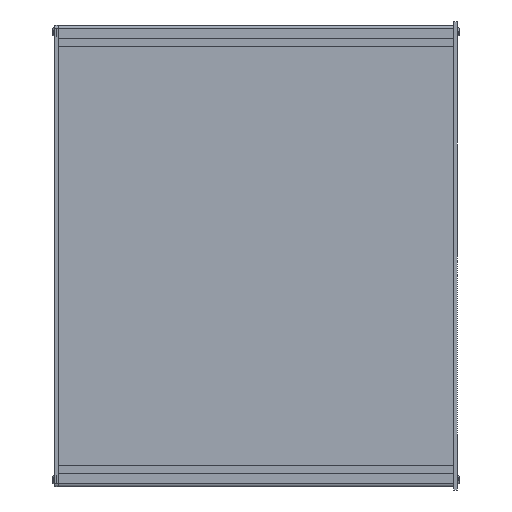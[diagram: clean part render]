
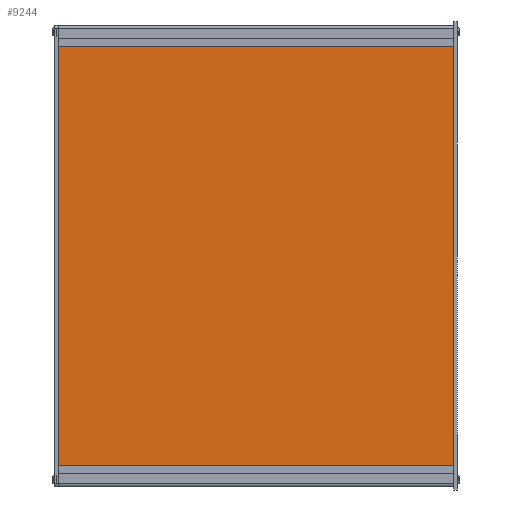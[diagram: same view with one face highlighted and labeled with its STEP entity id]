
A CAD part, left-side view. The second image highlights one B-rep face of the part: STEP entity #9244.
In plain terms, the highlighted planar face has unit normal (-1, 0, 0).
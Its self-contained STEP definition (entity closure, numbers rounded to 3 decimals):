
#1012=PLANE('',#10134);
#1308=FACE_OUTER_BOUND('',#1874,.T.);
#1874=EDGE_LOOP('',(#7037,#7038,#7039,#7040));
#2734=LINE('',#14578,#3444);
#2744=LINE('',#14599,#3454);
#2745=LINE('',#14601,#3455);
#2746=LINE('',#14602,#3456);
#3444=VECTOR('',#11668,10.);
#3454=VECTOR('',#11686,10.);
#3455=VECTOR('',#11687,10.);
#3456=VECTOR('',#11688,10.);
#4530=VERTEX_POINT('',#14571);
#4533=VERTEX_POINT('',#14576);
#4540=VERTEX_POINT('',#14598);
#4541=VERTEX_POINT('',#14600);
#5437=EDGE_CURVE('',#4530,#4533,#2734,.T.);
#5447=EDGE_CURVE('',#4530,#4540,#2744,.T.);
#5448=EDGE_CURVE('',#4541,#4533,#2745,.T.);
#5449=EDGE_CURVE('',#4540,#4541,#2746,.T.);
#7037=ORIENTED_EDGE('',*,*,#5447,.F.);
#7038=ORIENTED_EDGE('',*,*,#5437,.T.);
#7039=ORIENTED_EDGE('',*,*,#5448,.F.);
#7040=ORIENTED_EDGE('',*,*,#5449,.F.);
#9244=ADVANCED_FACE('',(#1308),#1012,.T.);
#10134=AXIS2_PLACEMENT_3D('',#14597,#11684,#11685);
#11668=DIRECTION('',(0.,1.,0.));
#11684=DIRECTION('center_axis',(-1.,0.,0.));
#11685=DIRECTION('ref_axis',(0.,0.,1.));
#11686=DIRECTION('',(0.,0.,-1.));
#11687=DIRECTION('',(0.,0.,1.));
#11688=DIRECTION('',(0.,1.,0.));
#14571=CARTESIAN_POINT('',(239.,0.,114.7));
#14576=CARTESIAN_POINT('',(239.,300.,114.7));
#14578=CARTESIAN_POINT('',(239.,0.,114.7));
#14597=CARTESIAN_POINT('Origin',(239.,0.,-202.8));
#14598=CARTESIAN_POINT('',(239.,0.,-202.8));
#14599=CARTESIAN_POINT('',(239.,0.,-44.05));
#14600=CARTESIAN_POINT('',(239.,300.,-202.8));
#14601=CARTESIAN_POINT('',(239.,300.,-44.05));
#14602=CARTESIAN_POINT('',(239.,0.,-202.8));
